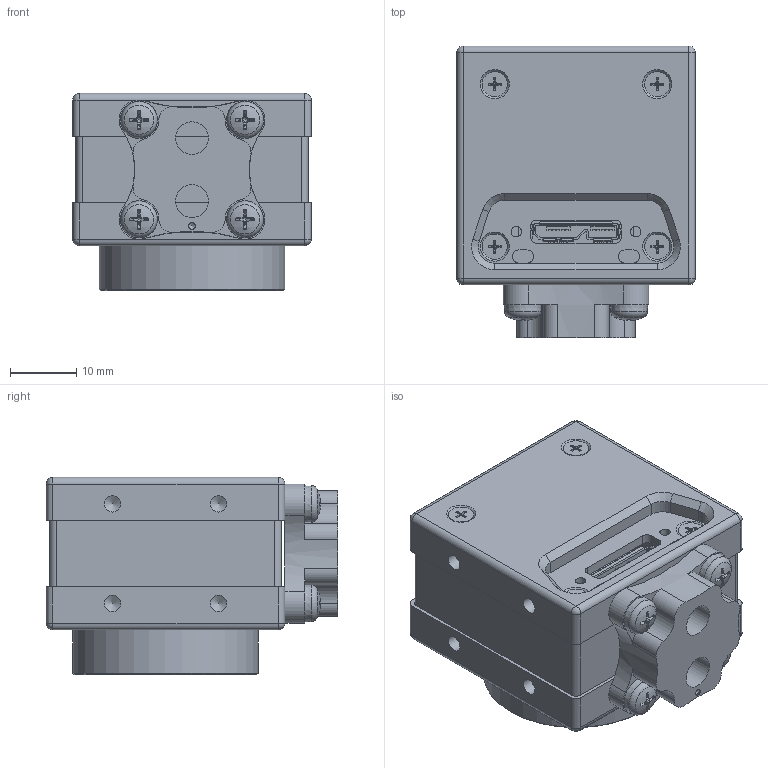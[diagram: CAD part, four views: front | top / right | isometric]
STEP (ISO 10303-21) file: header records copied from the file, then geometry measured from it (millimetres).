
FILE_DESCRIPTION(/* description */ (''),/* implementation_level */ '2;1');
FILE_NAME(/* name */ 'D:\HiDrive\1_Konstruktion\1_KUNDEN\TIS\154-13_MC36-Camera (Opto Precision)\154-13-5-00-00_MC36 Cam-10MP-CMOS-USB3.0\IPT und STEP Ableitungen für Kunden\154-13-52\154-13-52_(MC36_USB3_C-FP_18,1_ER-11,7).stp',/* time_stamp */ '2017-10-24T22:39:46+02:00',/* author */ ('khw'),/* organization */ (''),/* preprocessor_version */ 'ST-DEVELOPER v16.5',/* originating_system */ 'Autodesk Inventor 2017',/* authorisation */ '');
FILE_SCHEMA (('AUTOMOTIVE_DESIGN { 1 0 10303 214 3 1 1 }'));
Length unit declared in the file: millimetre
Products named in the file (4): 154-13-50_(MC36_USB3_CS-FP_13.1_ER-6,7); 154-13-52_(MC36_USB3_C-FP_18,1_ER-11,7); 154-13-1-00-03_(Tripod Adapter_OP34-240-007-C-FZ-01); ISO 7045 - M3 x 6 - 4.8 - H
Assembly tree (6 placements, depth 2):
  154-13-50_(MC36_USB3_CS-FP_13.1_ER-6,7)
    154-13-52_(MC36_USB3_C-FP_18,1_ER-11,7)
    154-13-1-00-03_(Tripod Adapter_OP34-240-007-C-FZ-01)
    ISO 7045 - M3 x 6 - 4.8 - H  x4
Bounding box: 36 x 44 x 29.75 mm (x, y, z)
Volume: 17917.8 mm3; surface area: 17255.4 mm2
Topology: 7 solids, 8 shells, 984 faces, 2666 edges, 1738 vertices
Faces by surface type: plane 501, cylinder 297, cone 132, torus 42, sphere 12
Full cylindrical faces by diameter (mm): 0.7 x1, 1 x1, 1.567 x6, 1.755 x4, 2 x4, 2.3 x4, 2.459 x16, 2.729 x4, 3 x4, 3.4 x4, 3.8 x4, 4 x4, 4.917 x1, 4.978 x1, 12 x1, 20.2 x1, 21.9 x1, 22 x2, 24.536 x1, 25.8 x1, 26 x1, 27 x2, 28 x2, 28.05 x1, 28.5 x1
Entity records: 28475 total; most frequent: CARTESIAN_POINT 5215, DIRECTION 4710, ORIENTED_EDGE 4502, EDGE_CURVE 2251, AXIS2_PLACEMENT_3D 1654, VERTEX_POINT 1533, LINE 1402, VECTOR 1402
